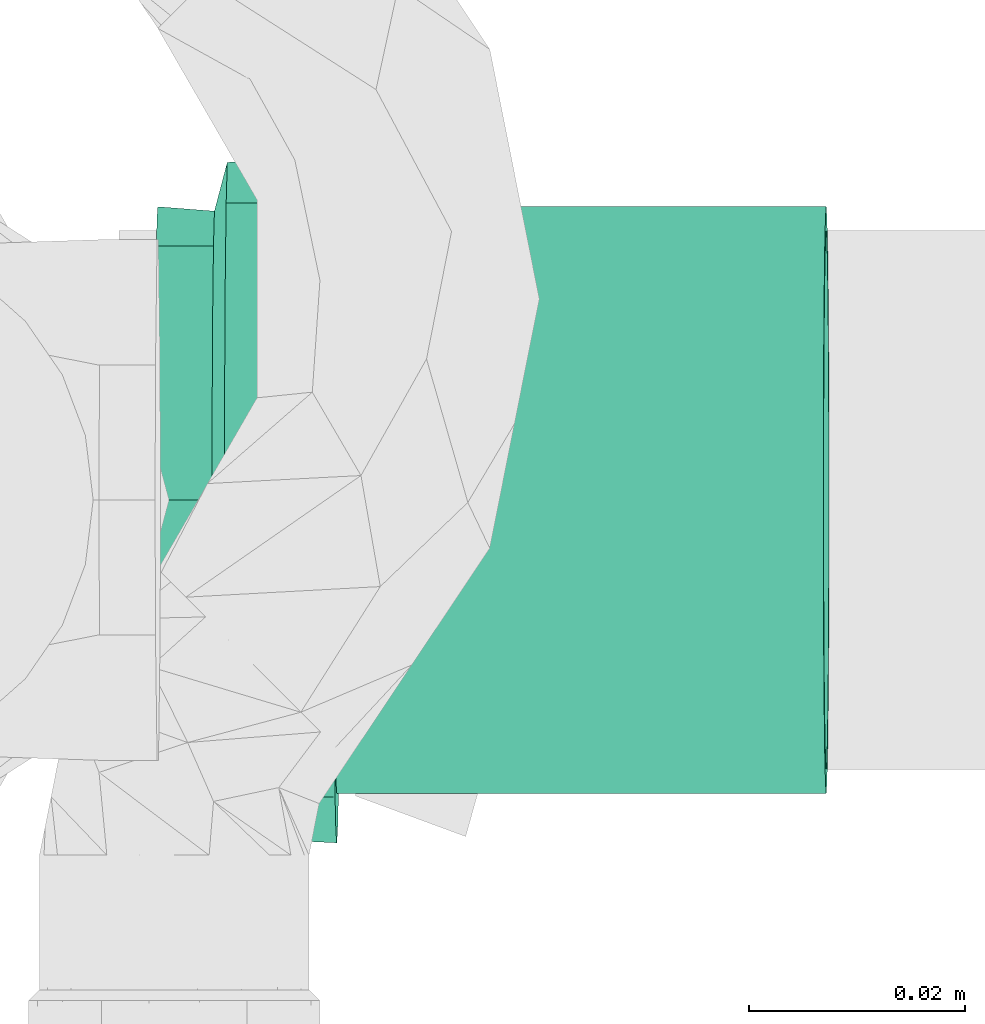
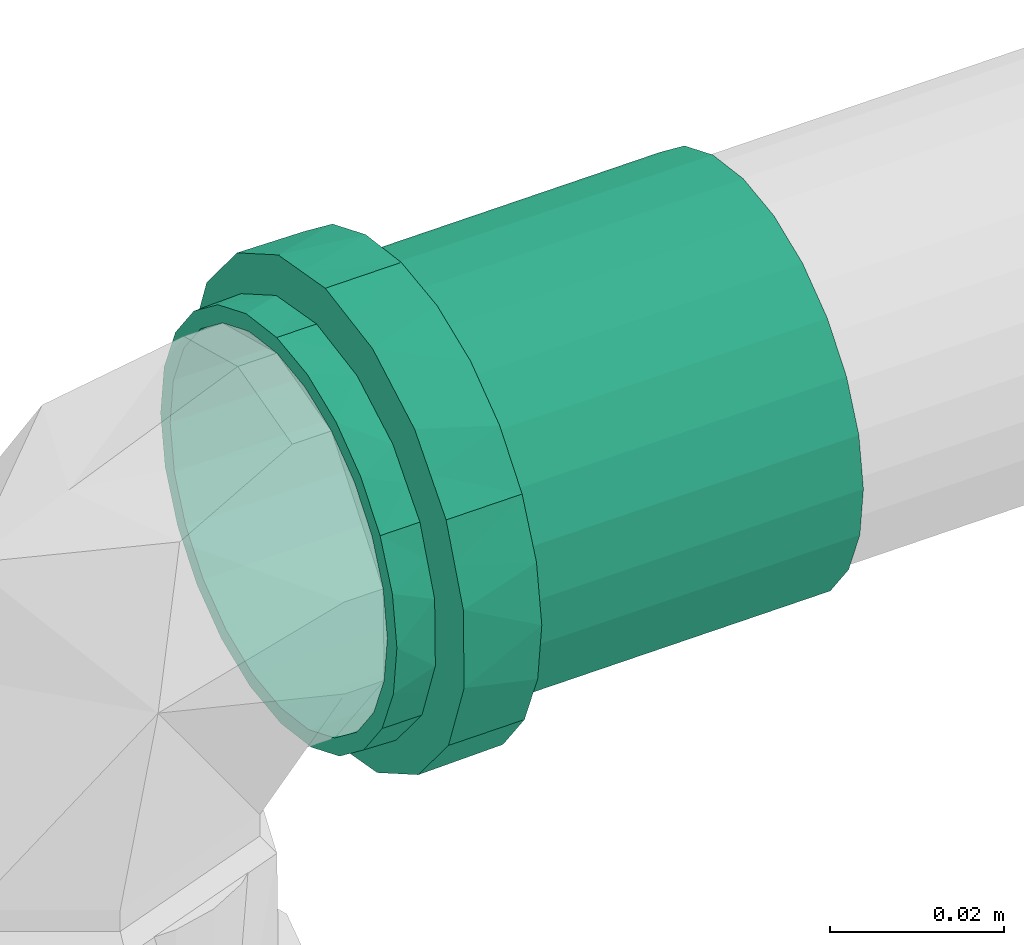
# One storey, part 87 of 589: 1 flow fitting.
"""IFC2X3 building model written with IfcOpenShell, lengths in millimetres."""

from ifc_helpers import new_model, entity, si_unit, converted_unit, derived_unit, direction, frame, origin, place, context, subcontext, project, spatial, faceted_brep, source, transform, mapped, material, type_object, type_shapes, element, save


model = new_model("IFC2X3")

# Units and contexts
model_context = context("Model", 3, precision=0.01, world=origin(), true_north=direction((6.123031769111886e-17, 1.0)))
body_context = subcontext(model_context, "Body", "Model", "MODEL_VIEW")
ifc_project = project(units=[si_unit("LENGTHUNIT", "METRE", prefix="MILLI"), si_unit("AREAUNIT", "SQUARE_METRE"), si_unit("VOLUMEUNIT", "CUBIC_METRE"), converted_unit("PLANEANGLEUNIT", "DEGREE", entity("IfcRatioMeasure", 0.017453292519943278), si_unit("PLANEANGLEUNIT", "RADIAN"), dimensions=[0, 0, 0, 0, 0, 0, 0]), si_unit("MASSUNIT", "GRAM", prefix="KILO"), derived_unit("MASSDENSITYUNIT", [(si_unit("MASSUNIT", "GRAM", prefix="KILO"), 1), (si_unit("LENGTHUNIT", "METRE"), -3)]), derived_unit("IONCONCENTRATIONUNIT", [(si_unit("MASSUNIT", "GRAM", prefix="KILO"), 1), (si_unit("LENGTHUNIT", "METRE"), -3)]), derived_unit("MOMENTOFINERTIAUNIT", [(si_unit("LENGTHUNIT", "METRE"), 4)]), si_unit("TIMEUNIT", "SECOND"), si_unit("FREQUENCYUNIT", "HERTZ"), si_unit("THERMODYNAMICTEMPERATUREUNIT", "DEGREE_CELSIUS"), derived_unit("THERMALTRANSMITTANCEUNIT", [(si_unit("MASSUNIT", "GRAM", prefix="KILO"), 1), (si_unit("THERMODYNAMICTEMPERATUREUNIT", "KELVIN"), -1), (si_unit("TIMEUNIT", "SECOND"), -3)]), derived_unit("THERMALCONDUCTANCEUNIT", [(si_unit("MASSUNIT", "GRAM", prefix="KILO"), 1), (si_unit("THERMODYNAMICTEMPERATUREUNIT", "KELVIN"), -1), (si_unit("TIMEUNIT", "SECOND"), -3), (si_unit("LENGTHUNIT", "METRE"), 1)]), derived_unit("VOLUMETRICFLOWRATEUNIT", [(si_unit("LENGTHUNIT", "METRE"), 3), (si_unit("TIMEUNIT", "SECOND"), -1)]), derived_unit("MASSFLOWRATEUNIT", [(si_unit("MASSUNIT", "GRAM", prefix="KILO"), 1), (si_unit("TIMEUNIT", "SECOND"), -1)]), derived_unit("ROTATIONALFREQUENCYUNIT", [(si_unit("TIMEUNIT", "SECOND"), -1)]), si_unit("ELECTRICCURRENTUNIT", "AMPERE"), si_unit("ELECTRICVOLTAGEUNIT", "VOLT"), si_unit("POWERUNIT", "WATT"), si_unit("FORCEUNIT", "NEWTON", prefix="KILO"), si_unit("ILLUMINANCEUNIT", "LUX"), si_unit("LUMINOUSFLUXUNIT", "LUMEN"), si_unit("LUMINOUSINTENSITYUNIT", "CANDELA"), derived_unit("USERDEFINED", [(si_unit("MASSUNIT", "GRAM", prefix="KILO"), -1), (si_unit("LENGTHUNIT", "METRE"), -2), (si_unit("TIMEUNIT", "SECOND"), 3), (si_unit("LUMINOUSFLUXUNIT", "LUMEN"), 1)]), derived_unit("USERDEFINED", [(si_unit("MASSUNIT", "GRAM", prefix="KILO"), 1), (si_unit("TIMEUNIT", "SECOND"), -3), (si_unit("LENGTHUNIT", "METRE"), 3), (si_unit("ELECTRICCURRENTUNIT", "AMPERE"), -2)]), derived_unit("SOUNDPOWERUNIT", [(si_unit("MASSUNIT", "GRAM", prefix="KILO"), 1), (si_unit("TIMEUNIT", "SECOND"), -3), (si_unit("LENGTHUNIT", "METRE"), 2)]), derived_unit("SOUNDPRESSUREUNIT", [(si_unit("MASSUNIT", "GRAM", prefix="KILO"), 1), (si_unit("LENGTHUNIT", "METRE"), -1), (si_unit("TIMEUNIT", "SECOND"), -2)]), derived_unit("LINEARVELOCITYUNIT", [(si_unit("LENGTHUNIT", "METRE"), 1), (si_unit("TIMEUNIT", "SECOND"), -1)]), si_unit("PRESSUREUNIT", "PASCAL"), derived_unit("USERDEFINED", [(si_unit("MASSUNIT", "GRAM", prefix="KILO"), 1), (si_unit("LENGTHUNIT", "METRE"), -2), (si_unit("TIMEUNIT", "SECOND"), -2)]), derived_unit("LINEARFORCEUNIT", [(si_unit("MASSUNIT", "GRAM", prefix="KILO"), 1), (si_unit("TIMEUNIT", "SECOND"), -2)]), derived_unit("PLANARFORCEUNIT", [(si_unit("MASSUNIT", "GRAM", prefix="KILO"), 1), (si_unit("LENGTHUNIT", "METRE"), -1), (si_unit("TIMEUNIT", "SECOND"), -2)]), derived_unit("SPECIFICHEATCAPACITYUNIT", [(si_unit("THERMODYNAMICTEMPERATUREUNIT", "KELVIN"), -1), (si_unit("LENGTHUNIT", "METRE"), 2), (si_unit("TIMEUNIT", "SECOND"), -2)]), derived_unit("HEATINGVALUEUNIT", [(si_unit("LENGTHUNIT", "METRE"), 2), (si_unit("TIMEUNIT", "SECOND"), -2)]), derived_unit("VAPORPERMEABILITYUNIT", [(si_unit("LENGTHUNIT", "METRE"), -1), (si_unit("TIMEUNIT", "SECOND"), 1)]), derived_unit("DYNAMICVISCOSITYUNIT", [(si_unit("MASSUNIT", "GRAM", prefix="KILO"), 1), (si_unit("TIMEUNIT", "SECOND"), -1), (si_unit("LENGTHUNIT", "METRE"), -1)]), derived_unit("THERMALEXPANSIONCOEFFICIENTUNIT", [(si_unit("THERMODYNAMICTEMPERATUREUNIT", "KELVIN"), -1)]), derived_unit("MODULUSOFELASTICITYUNIT", [(si_unit("MASSUNIT", "GRAM", prefix="KILO"), 1), (si_unit("LENGTHUNIT", "METRE"), -1), (si_unit("TIMEUNIT", "SECOND"), -2)]), derived_unit("ISOTHERMALMOISTURECAPACITYUNIT", [(si_unit("LENGTHUNIT", "METRE"), 3), (si_unit("MASSUNIT", "GRAM", prefix="KILO"), -1)]), derived_unit("MOISTUREDIFFUSIVITYUNIT", [(si_unit("TIMEUNIT", "SECOND"), -1), (si_unit("LENGTHUNIT", "METRE"), 2)])], contexts=[model_context])

# Site, building, storey
site_placement = place(None, origin())
site = spatial("IfcSite", under=ifc_project, at=site_placement, Name="Default", CompositionType="ELEMENT")
building_placement = place(site_placement, origin())
building = spatial("IfcBuilding", under=site, at=building_placement, CompositionType="ELEMENT")
storey_placement = place(building_placement, frame((0.0, 0.0, 100.0)))
storey = spatial("IfcBuildingStorey", under=building, at=storey_placement, Name="TÉRREO", CompositionType="ELEMENT", Elevation=100.0)

# Flow fitting
ifc_material = material(Name="PVC Série Normal")
pipe_fitting_type = type_object("IfcPipeFittingType", Name="PVC Esgoto_Luva Simples para Conexão_Rodrigo MEP:Standard", PredefinedType="NOTDEFINED", material=ifc_material)
shared_shape = source(origin(), body_context, "Body", "Brep", [
    faceted_brep([(16.599999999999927, 15.900000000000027, -27.53960784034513), (16.599999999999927, 22.485995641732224, -22.485995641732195), (16.599999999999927, 13.599999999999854, -23.555890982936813), (16.599999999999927, 7.039878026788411, -26.273182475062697), (16.599999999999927, 8.2304456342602, -30.71644127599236), (16.599999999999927, 19.233304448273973, -19.233304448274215), (16.599999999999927, 27.539607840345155, -15.899999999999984), (16.599999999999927, 23.55589098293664, -13.600000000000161), (16.599999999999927, 26.273182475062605, -7.03987802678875), (16.599999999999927, 30.716441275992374, -8.230445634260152), (16.599999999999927, 27.2, 0.0), (16.599999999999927, 31.8, 0.0), (16.599999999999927, 26.273182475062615, 7.0398780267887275), (16.599999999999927, 30.71644127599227, 8.23044563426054), (16.599999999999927, 23.555890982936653, 13.60000000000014), (16.599999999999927, 27.539607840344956, 15.900000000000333), (16.599999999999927, 19.233304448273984, 19.2333044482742), (16.599999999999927, 22.485995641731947, 22.48599564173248), (16.599999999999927, 13.599999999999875, 23.555890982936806), (16.599999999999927, 15.899999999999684, 27.53960784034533), (16.599999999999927, 7.039878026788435, 26.27318247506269), (16.599999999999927, 8.230445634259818, 30.716441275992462), (16.599999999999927, 0.0, 27.2), (16.599999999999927, 0.0, 31.8), (16.599999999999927, -7.039878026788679, 26.273182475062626), (16.599999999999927, -8.230445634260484, 30.716441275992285), (16.599999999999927, -13.600000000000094, 23.555890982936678), (16.599999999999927, -15.900000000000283, 27.53960784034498), (16.599999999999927, -19.23330444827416, 19.233304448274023), (16.599999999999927, -22.485995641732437, 22.48599564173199), (16.599999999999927, -23.55589098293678, 13.59999999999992), (16.599999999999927, -27.539607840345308, 15.899999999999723), (16.599999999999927, -30.71644127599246, 8.230445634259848), (16.599999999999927, -26.273182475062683, 7.039878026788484), (16.599999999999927, -31.8, 0.0), (16.599999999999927, -27.2, 0.0), (16.599999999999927, -30.71644127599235, -8.23044563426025), (16.599999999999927, -26.273182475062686, -7.03987802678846), (16.599999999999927, -27.53960784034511, -15.90000000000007), (16.599999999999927, -23.55589098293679, -13.599999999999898), (16.599999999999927, -22.485995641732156, -22.485995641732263), (16.599999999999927, -19.233304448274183, -19.233304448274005), (16.599999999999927, -15.899999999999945, -27.53960784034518), (16.599999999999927, -13.600000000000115, -23.555890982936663), (16.599999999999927, -8.230445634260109, -30.716441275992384), (16.599999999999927, -7.039878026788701, -26.273182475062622), (16.599999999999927, 0.0, -31.8), (16.599999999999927, 0.0, -27.2), (6.500000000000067, -10.708108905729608, 29.429219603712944), (6.500000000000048, -24.359073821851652, 20.44200387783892), (6.500000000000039, -27.120498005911, 15.6595386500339), (6.50000000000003, -29.881922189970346, 10.877073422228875), (6.500000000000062, -15.89769721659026, 27.540937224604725), (6.500000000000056, -20.128385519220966, 23.991470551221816), (6.50000000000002, -30.840961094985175, 5.438536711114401), (6.5000000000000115, -31.8, 0.0), (6.50000000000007, -5.518520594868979, 31.317501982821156), (6.500000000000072, 5.526376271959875, 31.316116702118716), (6.50000000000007, 0.00392783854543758, 31.316809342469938), (6.500000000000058, 20.134403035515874, 23.986420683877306), (6.500000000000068, 10.715490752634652, 29.42653259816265), (6.500000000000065, 15.904605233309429, 27.536948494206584), (6.500000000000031, 29.8846497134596, 10.869577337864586), (6.500000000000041, 27.12442527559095, 15.652735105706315), (6.5000000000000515, 24.364200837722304, 20.435892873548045), (6.5000000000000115, 31.8, 0.0), (6.499999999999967, 24.364200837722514, -20.435892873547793), (6.499999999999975, 27.12442527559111, -15.652735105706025), (6.499999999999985, 29.884649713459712, -10.869577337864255), (6.4999999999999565, 15.904605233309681, -27.53694849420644), (6.499999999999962, 20.134403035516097, -23.986420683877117), (6.499999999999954, 10.715490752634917, -29.42653259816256), (6.499999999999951, 5.526376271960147, -31.31611670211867), (6.499999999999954, -5.518520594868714, -31.317501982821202), (6.499999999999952, 0.003927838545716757, -31.316809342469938), (6.499999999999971, -20.128385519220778, -23.99147055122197), (6.499999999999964, -15.897697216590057, -27.54093722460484), (6.499999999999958, -10.70810890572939, -29.42921960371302), (6.499999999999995, -29.881922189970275, -10.877073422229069), (6.499999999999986, -27.12049800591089, -15.659538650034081), (6.499999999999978, -24.359073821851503, -20.442003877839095), (6.500000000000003, -30.840961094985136, -5.438536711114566), (6.499999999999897, -30.696173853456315, -6.259599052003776), (62.0, 13.600000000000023, -23.55589098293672), (62.0, 19.233304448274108, -19.23330444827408), (62.0, 12.499999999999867, -21.650635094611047), (62.0, 6.470476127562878, -24.14814565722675), (62.0, 7.039878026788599, -26.273182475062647), (62.0, 17.677669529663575, -17.677669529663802), (62.0, 23.55589098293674, -13.599999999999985), (62.0, 21.65063509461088, -12.50000000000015), (62.0, 24.148145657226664, -6.470476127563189), (62.0, 26.27318247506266, -7.039878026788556), (62.0, 25.0, 0.0), (62.0, 27.2, 0.0), (62.0, 24.148145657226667, 6.4704761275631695), (62.0, 26.273182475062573, 7.03987802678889), (62.0, 21.650635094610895, 12.500000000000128), (62.0, 23.555890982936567, 13.600000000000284), (62.0, 17.67766952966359, 17.67766952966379), (62.0, 19.233304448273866, 19.233304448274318), (62.0, 12.499999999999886, 21.650635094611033), (62.0, 13.59999999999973, 23.55589098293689), (62.0, 6.4704761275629, 24.14814565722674), (62.0, 7.039878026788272, 26.273182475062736), (62.0, 0.0, 25.0), (62.0, 0.0, 27.2), (62.0, -6.470476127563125, 24.148145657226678), (62.0, -7.039878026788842, 26.273182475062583), (62.0, -12.500000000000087, 21.650635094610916), (62.0, -13.600000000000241, 23.555890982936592), (62.0, -17.677669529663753, 17.677669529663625), (62.0, -19.233304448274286, 19.2333044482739), (62.0, -21.65063509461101, 12.499999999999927), (62.0, -23.555890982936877, 13.599999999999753), (62.0, -26.27318247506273, 7.039878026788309), (62.0, -24.14814565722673, 6.470476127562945), (62.0, -27.2, 0.0), (62.0, -25.0, 0.0), (62.0, -26.27318247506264, -7.0398780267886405), (62.0, -24.148145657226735, -6.470476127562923), (62.0, -23.5558909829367, -13.600000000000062), (62.0, -21.650635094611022, -12.499999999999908), (62.0, -19.233304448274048, -19.233304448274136), (62.0, -17.67766952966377, -17.677669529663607), (62.0, -13.599999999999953, -23.555890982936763), (62.0, -12.500000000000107, -21.650635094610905), (62.0, -7.039878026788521, -26.27318247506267), (62.0, -6.470476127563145, -24.148145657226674), (62.0, 0.0, -27.2), (62.0, 0.0, -25.0), (0.0, 12.499999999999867, -21.650635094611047), (0.0, 19.233304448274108, -19.23330444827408), (0.0, 13.600000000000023, -23.55589098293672), (0.0, 6.470476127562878, -24.14814565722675), (0.0, 17.677669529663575, -17.677669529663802), (0.0, 23.55589098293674, -13.599999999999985), (0.0, 21.65063509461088, -12.50000000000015), (0.0, 24.148145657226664, -6.470476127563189), (0.0, 26.27318247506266, -7.039878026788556), (0.0, 25.0, 0.0), (0.0, 27.2, 0.0), (0.0, 24.148145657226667, 6.4704761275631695), (0.0, 26.273182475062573, 7.03987802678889), (0.0, 21.650635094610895, 12.500000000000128), (0.0, 23.555890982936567, 13.600000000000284), (0.0, 17.67766952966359, 17.67766952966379), (0.0, 19.233304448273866, 19.233304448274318), (0.0, 12.499999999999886, 21.650635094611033), (0.0, 13.59999999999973, 23.55589098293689), (0.0, 6.4704761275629, 24.14814565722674), (0.0, 7.039878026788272, 26.273182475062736), (0.0, 0.0, 25.0), (0.0, 0.0, 27.2), (0.0, -6.470476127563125, 24.148145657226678), (0.0, -7.039878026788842, 26.273182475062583), (0.0, -12.500000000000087, 21.650635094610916), (0.0, -13.600000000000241, 23.555890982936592), (0.0, -17.677669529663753, 17.677669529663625), (0.0, -19.233304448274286, 19.2333044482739), (0.0, -21.65063509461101, 12.499999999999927), (0.0, -23.555890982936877, 13.599999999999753), (0.0, -26.27318247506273, 7.039878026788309), (0.0, -24.14814565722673, 6.470476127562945), (0.0, -27.2, 0.0), (0.0, -25.0, 0.0), (0.0, -26.27318247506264, -7.0398780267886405), (0.0, -24.148145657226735, -6.470476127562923), (0.0, -23.5558909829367, -13.600000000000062), (0.0, -21.650635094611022, -12.499999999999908), (0.0, -19.233304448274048, -19.233304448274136), (0.0, -17.67766952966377, -17.677669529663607), (0.0, -13.599999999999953, -23.555890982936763), (0.0, -12.500000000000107, -21.650635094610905), (0.0, -7.039878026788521, -26.27318247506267), (0.0, -6.470476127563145, -24.148145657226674), (0.0, 0.0, -27.2), (0.0, 0.0, -25.0), (0.0, 7.039878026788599, -26.273182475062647), (5.300000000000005, -26.37968999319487, 4.651830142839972), (5.299999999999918, -26.25584678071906, 5.354122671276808), (5.300000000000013, -25.559379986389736, 9.303660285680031), (5.300000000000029, -20.835434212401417, 17.48498444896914), (5.300000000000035, -17.216732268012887, 20.521006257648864), (5.300000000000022, -23.19740709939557, 13.394322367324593), (5.3000000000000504, -4.720244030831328, 26.787297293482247), (5.300000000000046, -9.15913717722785, 25.172162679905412), (5.299999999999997, -27.2, 0.0), (5.300000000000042, -13.598030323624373, 23.557028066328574), (5.300000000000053, 9.165451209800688, 25.169864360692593), (5.300000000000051, 13.603939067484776, 23.55361632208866), (5.300000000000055, 4.7269633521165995, 26.786112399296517), (5.300000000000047, 17.221879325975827, 20.516686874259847), (5.300000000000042, 20.839819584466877, 17.479757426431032), (5.3000000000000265, 25.56171296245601, 9.297248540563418), (5.299999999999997, 27.2, 0.0), (5.3000000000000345, 23.20076627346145, 13.388502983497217), (5.300000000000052, 0.003359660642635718, 26.786704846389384), (5.299999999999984, 25.56171296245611, -9.29724854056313), (5.299999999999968, 20.839819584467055, -17.47975742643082), (5.2999999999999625, 17.22187932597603, -20.516686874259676), (5.299999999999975, 23.200766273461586, -13.388502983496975), (5.299999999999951, 4.726963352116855, -26.78611239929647), (5.2999999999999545, 9.165451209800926, -25.169864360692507), (5.299999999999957, 13.603939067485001, -23.553616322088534), (5.29999999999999, -26.379689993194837, -4.651830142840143), (5.299999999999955, -9.159137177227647, -25.17216267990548), (5.299999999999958, -13.5980303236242, -23.55702806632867), (5.299999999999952, -4.720244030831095, -26.787297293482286), (5.299999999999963, -17.216732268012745, -20.52100625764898), (5.299999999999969, -20.83543421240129, -17.484984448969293), (5.299999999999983, -25.559379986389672, -9.303660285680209), (5.299999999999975, -23.197407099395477, -13.394322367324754), (5.299999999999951, 0.003359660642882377, -26.78670484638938), (39.0, -25.0, 0.0), (39.0, 25.0, 0.0)], [[[0, 1, 2]], [[0, 2, 3]], [[3, 4, 0]], [[2, 1, 5]], [[6, 5, 1]], [[7, 5, 6]], [[8, 7, 6]], [[8, 6, 9]], [[8, 9, 10]], [[10, 9, 11]], [[12, 10, 11]], [[12, 11, 13]], [[14, 12, 13]], [[14, 13, 15]], [[16, 14, 15]], [[15, 17, 16]], [[17, 18, 16]], [[17, 19, 18]], [[18, 19, 20]], [[21, 20, 19]], [[20, 21, 22]], [[22, 21, 23]], [[22, 23, 24]], [[24, 23, 25]], [[24, 25, 26]], [[27, 26, 25]], [[27, 28, 26]], [[28, 27, 29]], [[30, 28, 29]], [[31, 30, 29]], [[32, 30, 31]], [[33, 30, 32]], [[33, 32, 34]], [[35, 33, 34]], [[36, 35, 34]], [[36, 37, 35]], [[37, 36, 38]], [[39, 37, 38]], [[39, 38, 40]], [[39, 40, 41]], [[40, 42, 41]], [[41, 42, 43]], [[43, 42, 44]], [[44, 45, 43]], [[46, 45, 44]], [[4, 47, 46]], [[46, 47, 45]], [[4, 3, 47]], [[48, 27, 25]], [[31, 29, 49]], [[31, 49, 50, 51]], [[52, 53, 27]], [[32, 51, 54]], [[54, 55, 34]], [[54, 34, 32]], [[25, 56, 48]], [[49, 29, 53]], [[23, 57, 58, 56]], [[59, 19, 17]], [[27, 53, 29]], [[48, 52, 27]], [[31, 51, 32]], [[57, 23, 21]], [[60, 19, 61]], [[15, 62, 63, 64]], [[19, 60, 21]], [[15, 13, 62]], [[17, 64, 59]], [[57, 21, 60]], [[23, 56, 25]], [[15, 64, 17]], [[13, 65, 62]], [[13, 11, 65]], [[59, 61, 19]], [[65, 11, 9]], [[6, 1, 66]], [[6, 66, 67, 68]], [[69, 70, 0]], [[68, 65, 9]], [[71, 69, 0]], [[71, 0, 4]], [[4, 72, 71]], [[66, 1, 70]], [[46, 73, 74, 72]], [[75, 76, 42]], [[0, 70, 1]], [[75, 42, 40]], [[6, 68, 9]], [[73, 46, 44]], [[77, 42, 76]], [[38, 78, 79, 80]], [[42, 77, 44]], [[38, 36, 78]], [[40, 80, 75]], [[73, 44, 77]], [[46, 72, 4]], [[38, 80, 40]], [[36, 81, 82, 78]], [[55, 81, 34]], [[34, 81, 36]], [[83, 84, 85]], [[83, 85, 86]], [[86, 87, 83]], [[85, 84, 88]], [[89, 88, 84]], [[88, 89, 90]], [[90, 89, 91]], [[92, 91, 89]], [[92, 93, 91]], [[93, 92, 94]], [[95, 93, 94]], [[94, 96, 95]], [[95, 96, 97]], [[98, 97, 96]], [[97, 98, 99]], [[99, 98, 100]], [[101, 99, 100]], [[100, 102, 101]], [[101, 102, 103]], [[104, 103, 102]], [[103, 104, 105]], [[105, 104, 106]], [[105, 106, 107]], [[107, 106, 108]], [[107, 108, 109]], [[110, 109, 108]], [[110, 111, 109]], [[111, 110, 112]], [[112, 113, 111]], [[114, 113, 112]], [[113, 114, 115]], [[115, 116, 113]], [[117, 116, 115]], [[117, 118, 116]], [[119, 118, 117]], [[119, 120, 118]], [[120, 119, 121]], [[121, 122, 120]], [[122, 121, 123]], [[122, 123, 124]], [[123, 125, 124]], [[124, 125, 126]], [[126, 125, 127]], [[127, 128, 126]], [[129, 128, 127]], [[87, 130, 129]], [[129, 130, 128]], [[87, 86, 130]], [[131, 132, 133]], [[134, 131, 133]], [[135, 132, 131]], [[132, 135, 136]], [[137, 136, 135]], [[138, 136, 137]], [[136, 138, 139]], [[138, 140, 139]], [[141, 139, 140]], [[141, 140, 142]], [[142, 143, 141]], [[144, 143, 142]], [[143, 144, 145]], [[146, 145, 144]], [[147, 145, 146]], [[147, 146, 148]], [[148, 149, 147]], [[150, 149, 148]], [[149, 150, 151]], [[152, 151, 150]], [[153, 151, 152]], [[154, 153, 152]], [[155, 153, 154]], [[156, 155, 154]], [[155, 156, 157]], [[156, 158, 157]], [[159, 157, 158]], [[158, 160, 159]], [[159, 160, 161]], [[162, 161, 160]], [[160, 163, 162]], [[162, 163, 164]], [[163, 165, 164]], [[164, 165, 166]], [[165, 167, 166]], [[168, 166, 167]], [[167, 169, 168]], [[170, 168, 169]], [[171, 170, 169]], [[171, 172, 170]], [[173, 172, 171]], [[174, 172, 173]], [[173, 175, 174]], [[174, 175, 176]], [[175, 177, 176]], [[177, 134, 178]], [[176, 177, 178]], [[133, 178, 134]], [[162, 179, 180, 181]], [[159, 182, 183]], [[182, 161, 181, 184]], [[185, 155, 186]], [[161, 162, 181]], [[187, 179, 164]], [[183, 188, 157]], [[183, 157, 159]], [[161, 182, 159]], [[189, 190, 149]], [[189, 149, 151]], [[157, 188, 186]], [[157, 186, 155]], [[153, 155, 185]], [[164, 179, 162]], [[151, 191, 189]], [[147, 192, 193]], [[143, 194, 195]], [[194, 145, 193, 196]], [[143, 195, 141]], [[10, 12, 96, 94]], [[149, 192, 147]], [[153, 185, 197, 191]], [[153, 191, 151]], [[145, 147, 193]], [[190, 192, 149]], [[145, 194, 143]], [[139, 195, 198]], [[132, 199, 200]], [[199, 136, 198, 201]], [[202, 178, 203]], [[136, 139, 198]], [[139, 141, 195]], [[92, 8, 10, 94]], [[133, 203, 178]], [[200, 204, 133]], [[136, 199, 132]], [[205, 164, 166]], [[206, 207, 172]], [[133, 204, 203]], [[206, 172, 174]], [[176, 178, 202]], [[200, 133, 132]], [[174, 208, 206]], [[170, 209, 210]], [[166, 211, 205]], [[211, 168, 210, 212]], [[168, 211, 166]], [[172, 209, 170]], [[176, 202, 213, 208]], [[176, 208, 174]], [[168, 170, 210]], [[207, 209, 172]], [[205, 187, 164]], [[116, 118, 214, 165, 163]], [[156, 109, 111, 158]], [[111, 113, 160, 158]], [[113, 116, 163, 160]], [[107, 109, 156, 154]], [[154, 152, 105, 107]], [[103, 105, 152, 150]], [[103, 150, 148, 101]], [[142, 95, 97, 144]], [[97, 99, 146, 144]], [[99, 101, 148, 146]], [[93, 95, 142, 140, 215]], [[215, 140, 138, 91, 93]], [[135, 131, 85, 88]], [[90, 91, 138, 137]], [[90, 137, 135, 88]], [[86, 85, 131, 134]], [[134, 177, 130, 86]], [[128, 130, 177, 175]], [[128, 175, 173, 126]], [[167, 120, 122, 169]], [[122, 124, 171, 169]], [[124, 126, 173, 171]], [[118, 120, 167, 165, 214]], [[211, 78, 82, 81, 55, 187, 205]], [[79, 78, 211, 212, 210, 80]], [[75, 80, 210, 209, 207, 76]], [[207, 206, 208, 73, 77, 76]], [[213, 202, 72, 74, 73, 208]], [[203, 204, 69, 71, 72, 202]], [[198, 195, 65, 68]], [[199, 201, 198, 68, 67, 66]], [[204, 200, 199, 66, 70, 69]], [[195, 194, 62, 65]], [[197, 185, 56, 58, 57, 191]], [[63, 62, 194, 196, 193, 64]], [[57, 60, 61, 190, 189, 191]], [[193, 192, 190, 61, 59, 64]], [[48, 56, 185, 186, 188, 52]], [[187, 55, 54, 51, 181, 180, 179]], [[182, 184, 181, 51, 50, 49]], [[188, 183, 182, 49, 53, 52]], [[30, 33, 115, 114]], [[117, 115, 33, 35]], [[26, 28, 112, 110]], [[114, 112, 28, 30]], [[24, 26, 110, 108]], [[108, 106, 22, 24]], [[18, 20, 104, 102]], [[100, 16, 18, 102]], [[12, 14, 98, 96]], [[100, 98, 14, 16]], [[104, 20, 22, 106]], [[89, 7, 8, 92]], [[83, 87, 3, 2]], [[7, 89, 84, 5]], [[83, 2, 5, 84]], [[87, 129, 47, 3]], [[43, 45, 127, 125]], [[123, 41, 43, 125]], [[37, 39, 121, 119]], [[123, 121, 39, 41]], [[35, 37, 119, 117]], [[127, 45, 47, 129]]]),
])
type_shapes(pipe_fitting_type, [shared_shape])
flow_fitting_placement = place(storey_placement, frame((-7564.238781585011, -1275.6092449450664, 2972.586374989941), z_axis=(0.0, 1.0, 0.0), x_axis=(0.9999500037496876, 0.0, 0.009999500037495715)))
element("IfcFlowFitting", 1, at=flow_fitting_placement, inside=storey, type_object=pipe_fitting_type, material=ifc_material, Name="PVC Esgoto_Luva Simples para Conexão_Rodrigo MEP:Standard", ObjectType="PVC Esgoto_Luva Simples para Conexão_Rodrigo MEP:Standard", context=body_context, shape_type="MappedRepresentation", body=[
    mapped(shared_shape, transform((0.0, 0.0, 0.0), scale=1.0)),
])

save(model, "model.ifc")
